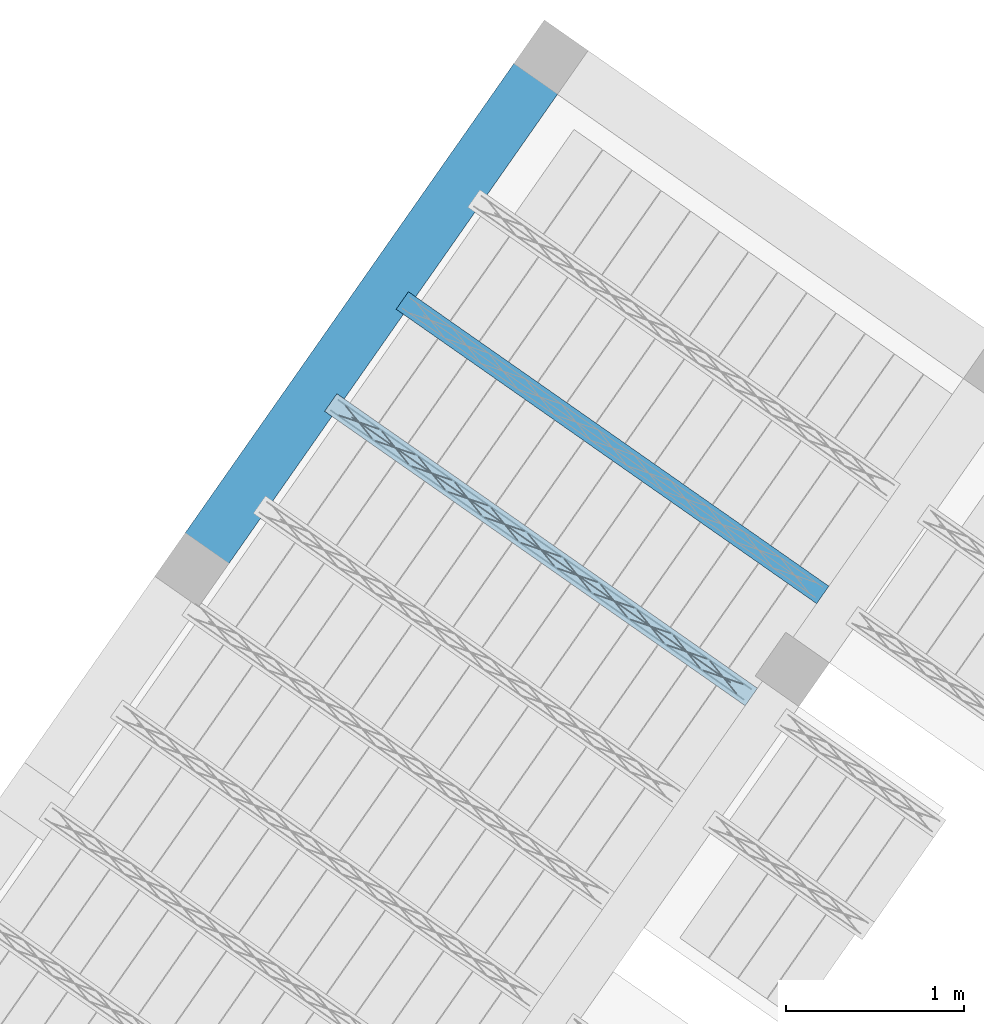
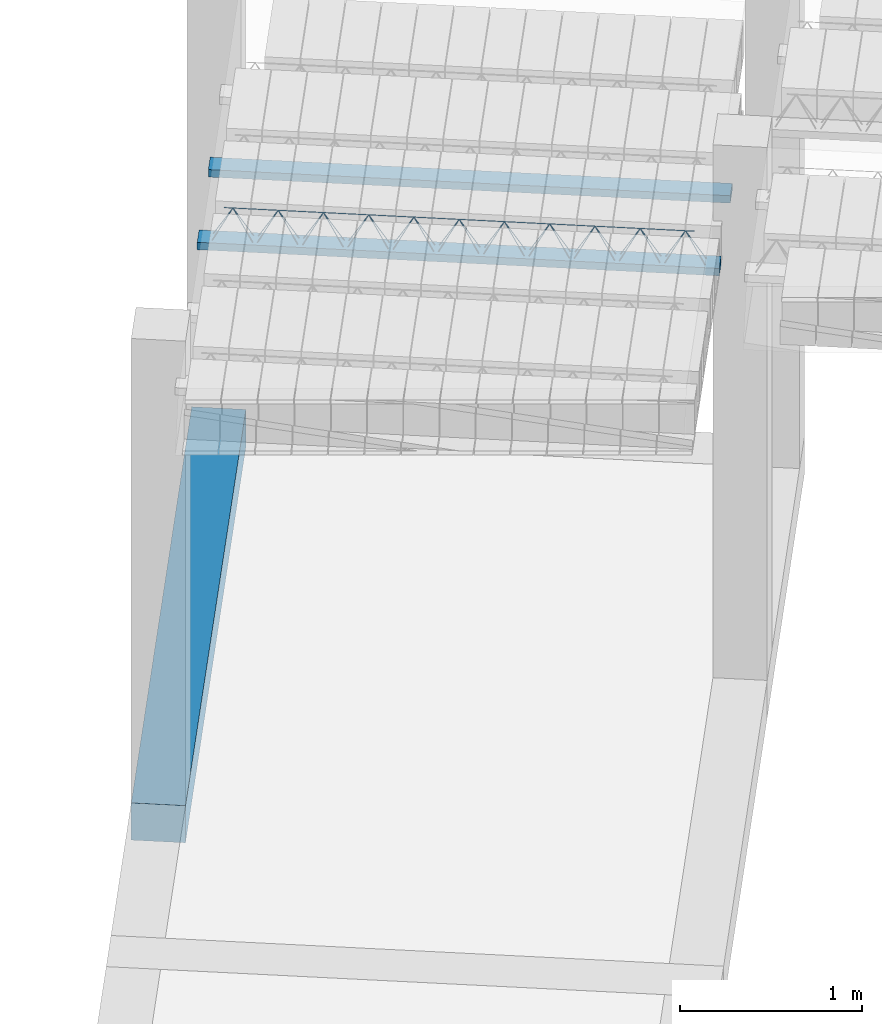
# One storey, part 38 of 80: 3 beams.
"""IFC2X3 building model written with IfcOpenShell, lengths in metres."""

import ifcopenshell
import ifcopenshell.guid

model = None  # the IFC model being written
_history = None  # IfcOwnerHistory: only IFC2X3 demands one
_inside = {}  # id of a spatial element -> (the spatial element, [elements in it])
_under = {}  # id of a project, library or spatial element -> (it, [spatial elements below it])
_declared = {}  # id of a project -> (the project, [libraries it declares])
_typed = {}  # id of a type object -> (the type object, [elements of that type])
_made_of = {}  # id of a material, layer set ... -> (it, [elements and type objects made of it])


def new_model(schema):
    """Start an empty IFC model of exactly this schema.

    Asked for "IFC4X3", IfcOpenShell would pick the latest addendum, in which some entities
    have other attributes; the version numbers below select the first issue.
    IFC2X3 requires an IfcOwnerHistory on every rooted entity: one is made here for all.
    """
    global model, _history
    if schema == "IFC4X3":
        model = ifcopenshell.file(schema_version=(4, 3, 0, 0))
    else:
        model = ifcopenshell.file(schema=schema)
    _inside.clear()
    _under.clear()
    _declared.clear()
    _typed.clear()
    _made_of.clear()
    _history = None
    if model.schema == "IFC2X3":
        org = make("IfcOrganization", Name="unknown")
        user = make(
            "IfcPersonAndOrganization",
            ThePerson=make("IfcPerson", FamilyName="unknown"),
            TheOrganization=org,
        )
        app = make(
            "IfcApplication",
            ApplicationDeveloper=org,
            Version="unknown",
            ApplicationFullName="unknown",
            ApplicationIdentifier="unknown",
        )
        _history = make(
            "IfcOwnerHistory",
            OwningUser=user,
            OwningApplication=app,
            ChangeAction="ADDED",
            CreationDate=0,
        )
    return model


def make(cls, **values):
    """One entity of the class cls with the attributes given. An attribute that is None is left unset."""
    return model.create_entity(
        cls, **{name: value for name, value in values.items() if value is not None}
    )


def entity(cls, *values):
    """Any entity or typed value of the class cls, its attributes in the order of the schema. None: left unset."""
    e = model.create_entity(cls)
    for i, value in enumerate(values):
        if value is not None:
            e[i] = value
    return e


def rooted(cls, **values):
    """An entity with a GlobalId (a new one), such as an element, a storey or a relation."""
    return make(cls, GlobalId=ifcopenshell.guid.new(), OwnerHistory=_history, **values)


def si_unit(unit_type, name, prefix=None):
    """IfcSIUnit, for example si_unit("LENGTHUNIT", "METRE", prefix="MILLI")."""
    return make("IfcSIUnit", UnitType=unit_type, Prefix=prefix, Name=name)


def converted_unit(unit_type, name, factor, base, dimensions=None, offset=None):
    """IfcConversionBasedUnit, such as the inch: factor (a typed value) times the base unit."""
    return make(
        "IfcConversionBasedUnit"
        if offset is None
        else "IfcConversionBasedUnitWithOffset",
        ConversionOffset=offset,
        Dimensions=None
        if dimensions is None
        else entity("IfcDimensionalExponents", *dimensions),
        UnitType=unit_type,
        Name=name,
        ConversionFactor=make(
            "IfcMeasureWithUnit", ValueComponent=factor, UnitComponent=base
        ),
    )


def derived_unit(unit_type, elements):
    """IfcDerivedUnit: a product of units, each with its exponent."""
    return make(
        "IfcDerivedUnit",
        Elements=[
            make("IfcDerivedUnitElement", Unit=unit, Exponent=power)
            for unit, power in elements
        ],
        UnitType=unit_type,
    )


def assignment(units):
    """IfcUnitAssignment: the units of a project."""
    return None if units is None else make("IfcUnitAssignment", Units=units)


def point(xyz):
    """IfcCartesianPoint."""
    return None if xyz is None else make("IfcCartesianPoint", Coordinates=xyz)


def direction(xyz):
    """IfcDirection."""
    return None if xyz is None else make("IfcDirection", DirectionRatios=xyz)


def frame(location, z_axis=None, x_axis=None):
    """IfcAxis2Placement3D, a coordinate frame: its origin and axes. An axis left out is left unset."""
    return make(
        "IfcAxis2Placement3D",
        Location=point(location),
        Axis=direction(z_axis),
        RefDirection=direction(x_axis),
    )


def frame_2d(location, x_axis=None):
    """IfcAxis2Placement2D, a coordinate frame in the plane: its origin and x axis."""
    return make(
        "IfcAxis2Placement2D", Location=point(location), RefDirection=direction(x_axis)
    )


def origin():
    """The frame at (0, 0, 0) with its axes left unset."""
    return frame((0.0, 0.0, 0.0))


def origin_2d_with_axis():
    """The frame at (0, 0) in the plane with the x axis (1, 0) written out."""
    return frame_2d((0.0, 0.0), x_axis=(1.0, 0.0))


def place(relative_to, where):
    """IfcLocalPlacement: puts the frame where relative to a parent placement (None: the world)."""
    return make(
        "IfcLocalPlacement", PlacementRelTo=relative_to, RelativePlacement=where
    )


def context(
    kind, dimensions, precision=None, world=None, true_north=None, identifier=None
):
    """IfcGeometricRepresentationContext, for example the 3D "Model" context."""
    return make(
        "IfcGeometricRepresentationContext",
        ContextIdentifier=identifier,
        ContextType=kind,
        CoordinateSpaceDimension=dimensions,
        Precision=precision,
        WorldCoordinateSystem=world,
        TrueNorth=true_north,
    )


def subcontext(parent, identifier, kind, view, scale=None):
    """IfcGeometricRepresentationSubContext, for example "Body" below "Model"."""
    return make(
        "IfcGeometricRepresentationSubContext",
        ContextIdentifier=identifier,
        ContextType=kind,
        ParentContext=parent,
        TargetScale=scale,
        TargetView=view,
    )


def project(units=None, contexts=None):
    """IfcProject with its units and contexts."""
    return rooted(
        "IfcProject",
        Name="project",
        RepresentationContexts=contexts,
        UnitsInContext=assignment(units),
    )


def spatial(cls, under=None, at=None, **own):
    """A site, building, storey or space (cls), placed at a placement, below another one or the project."""
    s = rooted(cls, ObjectPlacement=at, **own)
    if under is not None:
        _under.setdefault(under.id(), (under, []))[1].append(s)
    return s


def profile(cls, at=None, kind="AREA", **sizes):
    """A parametric profile (cls). Its sizes go by their IFC names, for example OverallWidth=200.0."""
    return make(cls, ProfileType=kind, Position=at, **sizes)


def rectangle(**sizes):
    """IfcRectangleProfileDef."""
    return profile("IfcRectangleProfileDef", **sizes)


def circle(**sizes):
    """IfcCircleProfileDef."""
    return profile("IfcCircleProfileDef", **sizes)


def extrude(swept, where, along, depth):
    """IfcExtrudedAreaSolid: the profile swept, set in the frame where, extruded along a direction by depth."""
    return make(
        "IfcExtrudedAreaSolid",
        SweptArea=swept,
        Position=where,
        ExtrudedDirection=direction(along),
        Depth=depth,
    )


def shape(context_of_items, identifier, shape_type, items):
    """IfcShapeRepresentation: the items that make up one representation, for example the "Body"."""
    return make(
        "IfcShapeRepresentation",
        ContextOfItems=context_of_items,
        RepresentationIdentifier=identifier,
        RepresentationType=shape_type,
        Items=items,
    )


def material(Name=None, Category=None):
    """IfcMaterial."""
    return make("IfcMaterial", Name=Name, Category=Category)


def made_of(thing, what):
    """Note that an element or type object is made of a material, layer set ...; save() writes the relation."""
    if what is not None:
        _made_of.setdefault(what.id(), (what, []))[1].append(thing)
    return thing


def type_object(cls, material=None, **own):
    """A type object (cls), such as IfcWallType, which elements share."""
    return made_of(rooted(cls, **own), material)


def element(
    cls,
    number,
    at=None,
    inside=None,
    cuts=None,
    type_object=None,
    material=None,
    context=None,
    identifier="Body",
    shape_type=None,
    held_by="IfcProductDefinitionShape",
    body=None,
    shapes=None,
    **own,
):
    """One element of the class cls, such as IfcWall. Its Tag is "e" and its number.

    at: its placement. inside: the storey or other place that contains it. cuts: it is an
    opening in that element (IfcRelVoidsElement). A single representation is given by context,
    identifier, shape_type and body (its items); several are given by shapes. held_by: the class
    of the entity that holds the representations. save() writes the other relations.
    """
    e = rooted(cls, Tag="e%d" % number, ObjectPlacement=at, **own)
    if body is not None:
        shapes = [shape(context, identifier, shape_type, body)]
    if shapes is not None:
        e.Representation = make(held_by, Representations=shapes)
    if inside is not None:
        _inside.setdefault(inside.id(), (inside, []))[1].append(e)
    if cuts is not None:
        rooted(
            "IfcRelVoidsElement", RelatingBuildingElement=cuts, RelatedOpeningElement=e
        )
    if type_object is not None:
        _typed.setdefault(type_object.id(), (type_object, []))[1].append(e)
    return made_of(e, material)


def aggregate(whole, parts):
    """IfcRelAggregates: a whole, such as a stair, and the parts it consists of."""
    return rooted("IfcRelAggregates", RelatingObject=whole, RelatedObjects=parts)


def save(model, path):
    """Write the relations noted so far, then the file.

    IfcRelAggregates (storeys below a building ...), IfcRelContainedInSpatialStructure (elements
    in a storey), IfcRelDefinesByType, IfcRelAssociatesMaterial and IfcRelDeclares: one each for
    every whole, place, type object, material and project.
    """
    for whole, parts in _under.values():
        aggregate(whole, parts)
    for where, things in _inside.values():
        rooted(
            "IfcRelContainedInSpatialStructure",
            RelatedElements=things,
            RelatingStructure=where,
        )
    for kind, things in _typed.values():
        rooted("IfcRelDefinesByType", RelatedObjects=things, RelatingType=kind)
    for what, things in _made_of.values():
        rooted("IfcRelAssociatesMaterial", RelatedObjects=things, RelatingMaterial=what)
    for by, libraries in _declared.values():
        rooted("IfcRelDeclares", RelatingContext=by, RelatedDefinitions=libraries)
    model.write(path)


model = new_model("IFC2X3")

# Units and contexts
model_context = context("Model", 3, precision=1e-05, world=origin(), true_north=direction((6.123031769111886e-17, 1.0)))
body_context = subcontext(model_context, "Body", "Model", "MODEL_VIEW")
ifc_project = project(units=[si_unit("LENGTHUNIT", "METRE"), si_unit("AREAUNIT", "SQUARE_METRE"), si_unit("VOLUMEUNIT", "CUBIC_METRE"), converted_unit("PLANEANGLEUNIT", "DEGREE", entity("IfcPlaneAngleMeasure", 0.017453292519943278), si_unit("PLANEANGLEUNIT", "RADIAN"), dimensions=[0, 0, 0, 0, 0, 0, 0]), si_unit("MASSUNIT", "GRAM", prefix="KILO"), derived_unit("MASSDENSITYUNIT", [(si_unit("MASSUNIT", "GRAM", prefix="KILO"), 1), (si_unit("LENGTHUNIT", "METRE"), -3)]), derived_unit("IONCONCENTRATIONUNIT", [(si_unit("MASSUNIT", "GRAM", prefix="KILO"), 1), (si_unit("LENGTHUNIT", "METRE"), -3)]), derived_unit("MOMENTOFINERTIAUNIT", [(si_unit("LENGTHUNIT", "METRE"), 4)]), si_unit("TIMEUNIT", "SECOND"), si_unit("FREQUENCYUNIT", "HERTZ"), si_unit("THERMODYNAMICTEMPERATUREUNIT", "DEGREE_CELSIUS"), derived_unit("THERMALTRANSMITTANCEUNIT", [(si_unit("MASSUNIT", "GRAM", prefix="KILO"), 1), (si_unit("THERMODYNAMICTEMPERATUREUNIT", "KELVIN"), -1), (si_unit("TIMEUNIT", "SECOND"), -3)]), derived_unit("THERMALCONDUCTANCEUNIT", [(si_unit("MASSUNIT", "GRAM", prefix="KILO"), 1), (si_unit("THERMODYNAMICTEMPERATUREUNIT", "KELVIN"), -1), (si_unit("TIMEUNIT", "SECOND"), -3), (si_unit("LENGTHUNIT", "METRE"), 1)]), derived_unit("VOLUMETRICFLOWRATEUNIT", [(si_unit("LENGTHUNIT", "METRE", prefix="DECI"), 3), (si_unit("TIMEUNIT", "SECOND"), -1)]), derived_unit("MASSFLOWRATEUNIT", [(si_unit("MASSUNIT", "GRAM", prefix="KILO"), 1), (si_unit("TIMEUNIT", "SECOND"), -1)]), derived_unit("ROTATIONALFREQUENCYUNIT", [(si_unit("TIMEUNIT", "SECOND"), -1)]), si_unit("ELECTRICCURRENTUNIT", "AMPERE"), si_unit("ELECTRICVOLTAGEUNIT", "VOLT"), si_unit("POWERUNIT", "WATT"), si_unit("FORCEUNIT", "NEWTON", prefix="KILO"), si_unit("ILLUMINANCEUNIT", "LUX"), si_unit("LUMINOUSFLUXUNIT", "LUMEN"), si_unit("LUMINOUSINTENSITYUNIT", "CANDELA"), si_unit("ENERGYUNIT", "JOULE"), derived_unit("USERDEFINED", [(si_unit("MASSUNIT", "GRAM", prefix="KILO"), -1), (si_unit("LENGTHUNIT", "METRE"), -2), (si_unit("TIMEUNIT", "SECOND"), 3), (si_unit("LUMINOUSFLUXUNIT", "LUMEN"), 1)]), derived_unit("USERDEFINED", [(si_unit("MASSUNIT", "GRAM", prefix="KILO"), 1), (si_unit("TIMEUNIT", "SECOND"), -3), (si_unit("LENGTHUNIT", "METRE"), 3), (si_unit("ELECTRICCURRENTUNIT", "AMPERE"), -2)]), derived_unit("SOUNDPOWERUNIT", [(si_unit("MASSUNIT", "GRAM", prefix="KILO"), 1), (si_unit("TIMEUNIT", "SECOND"), -3), (si_unit("LENGTHUNIT", "METRE"), 2)]), derived_unit("SOUNDPRESSUREUNIT", [(si_unit("MASSUNIT", "GRAM", prefix="KILO"), 1), (si_unit("LENGTHUNIT", "METRE"), -1), (si_unit("TIMEUNIT", "SECOND"), -2)]), derived_unit("LINEARVELOCITYUNIT", [(si_unit("LENGTHUNIT", "METRE"), 1), (si_unit("TIMEUNIT", "SECOND"), -1)]), si_unit("PRESSUREUNIT", "PASCAL"), derived_unit("USERDEFINED", [(si_unit("MASSUNIT", "GRAM", prefix="KILO"), 1), (si_unit("LENGTHUNIT", "METRE"), -2), (si_unit("TIMEUNIT", "SECOND"), -2)]), derived_unit("LINEARFORCEUNIT", [(si_unit("MASSUNIT", "GRAM", prefix="KILO"), 1), (si_unit("TIMEUNIT", "SECOND"), -2)]), derived_unit("PLANARFORCEUNIT", [(si_unit("MASSUNIT", "GRAM", prefix="KILO"), 1), (si_unit("LENGTHUNIT", "METRE"), -1), (si_unit("TIMEUNIT", "SECOND"), -2)]), derived_unit("SPECIFICHEATCAPACITYUNIT", [(si_unit("THERMODYNAMICTEMPERATUREUNIT", "KELVIN"), -1), (si_unit("LENGTHUNIT", "METRE"), 2), (si_unit("TIMEUNIT", "SECOND"), -2)]), derived_unit("HEATFLUXDENSITYUNIT", [(si_unit("MASSUNIT", "GRAM", prefix="KILO"), 1), (si_unit("TIMEUNIT", "SECOND"), -3)]), derived_unit("HEATINGVALUEUNIT", [(si_unit("LENGTHUNIT", "METRE"), 2), (si_unit("TIMEUNIT", "SECOND"), -2)]), derived_unit("VAPORPERMEABILITYUNIT", [(si_unit("LENGTHUNIT", "METRE"), -1), (si_unit("TIMEUNIT", "SECOND"), 1)]), derived_unit("DYNAMICVISCOSITYUNIT", [(si_unit("MASSUNIT", "GRAM", prefix="KILO"), 1), (si_unit("TIMEUNIT", "SECOND"), -1), (si_unit("LENGTHUNIT", "METRE"), -1)]), derived_unit("THERMALEXPANSIONCOEFFICIENTUNIT", [(si_unit("THERMODYNAMICTEMPERATUREUNIT", "KELVIN"), -1)]), derived_unit("MODULUSOFELASTICITYUNIT", [(si_unit("MASSUNIT", "GRAM", prefix="KILO"), 1), (si_unit("LENGTHUNIT", "METRE"), -1), (si_unit("TIMEUNIT", "SECOND"), -2)]), derived_unit("ISOTHERMALMOISTURECAPACITYUNIT", [(si_unit("MASSUNIT", "GRAM", prefix="KILO"), -1), (si_unit("LENGTHUNIT", "METRE"), 3)]), derived_unit("MOISTUREDIFFUSIVITYUNIT", [(si_unit("TIMEUNIT", "SECOND"), -1), (si_unit("LENGTHUNIT", "METRE"), 2)]), derived_unit("MASSPERLENGTHUNIT", [(si_unit("MASSUNIT", "GRAM", prefix="KILO"), 1), (si_unit("LENGTHUNIT", "METRE"), -1)]), derived_unit("THERMALRESISTANCEUNIT", [(si_unit("MASSUNIT", "GRAM", prefix="KILO"), -1), (si_unit("TIMEUNIT", "SECOND"), 3), (si_unit("THERMODYNAMICTEMPERATUREUNIT", "KELVIN"), 1)]), derived_unit("ACCELERATIONUNIT", [(si_unit("LENGTHUNIT", "METRE"), 1), (si_unit("TIMEUNIT", "SECOND"), -2)]), derived_unit("ANGULARVELOCITYUNIT", [(si_unit("TIMEUNIT", "SECOND"), -1), (si_unit("PLANEANGLEUNIT", "RADIAN"), 1)]), derived_unit("LINEARSTIFFNESSUNIT", [(si_unit("MASSUNIT", "GRAM", prefix="KILO"), 1), (si_unit("TIMEUNIT", "SECOND"), -2)]), derived_unit("WARPINGCONSTANTUNIT", [(si_unit("LENGTHUNIT", "METRE"), 6)]), derived_unit("LINEARMOMENTUNIT", [(si_unit("MASSUNIT", "GRAM", prefix="KILO"), 1), (si_unit("LENGTHUNIT", "METRE"), 1), (si_unit("TIMEUNIT", "SECOND"), -2)]), derived_unit("TORQUEUNIT", [(si_unit("MASSUNIT", "GRAM", prefix="KILO"), 1), (si_unit("LENGTHUNIT", "METRE"), 2), (si_unit("TIMEUNIT", "SECOND"), -2)])], contexts=[model_context])

# Site, building, storey
site_placement = place(None, origin())
site = spatial("IfcSite", under=ifc_project, at=site_placement, Name="Default", CompositionType="ELEMENT")
building_placement = place(site_placement, origin())
building = spatial("IfcBuilding", under=site, at=building_placement, CompositionType="ELEMENT")
storey_placement = place(building_placement, frame((0.0, 0.0, 95.94)))
storey = spatial("IfcBuildingStorey", under=building, at=storey_placement, Name="PB", CompositionType="ELEMENT", Elevation=95.94)

# Beams
beam_type = type_object("IfcBeamType", Name="Vigueta 12 (Paño 2) (Mf = 10.92)", PredefinedType="JOIST")
beam_1_placement = place(storey_placement, origin())
element("IfcBeam", 1, at=beam_1_placement, inside=storey, type_object=beam_type, Name="Vigueta 12 (Paño 2) (Mf = 10.92)", ObjectType="Mf = 10.92", context=body_context, shape_type="SweptSolid", body=[
    extrude(rectangle(XDim=2.8843914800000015, YDim=0.12000000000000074, at=frame_2d((-5.551115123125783e-16, -3.365363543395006e-16), x_axis=(1.0, 0.0))), frame((4.417970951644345, 8.199012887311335, 2.82), z_axis=(0.0, 0.0, 1.0), x_axis=(0.8191520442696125, -0.5735764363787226, 0.0)), (0.0, 0.0, 1.0), 0.04999999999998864),
    extrude(circle(Radius=0.0025, at=origin_2d_with_axis()), frame((3.235604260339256, 8.982967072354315, 2.8449999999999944), z_axis=(0.8191520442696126, -0.5735764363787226, 0.0), x_axis=(-0.5735764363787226, -0.8191520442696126, 0.0)), (0.0, 0.0, 1.0), 2.836391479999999),
    extrude(circle(Radius=0.0025, at=origin_2d_with_axis()), frame((3.3530732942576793, 8.94466225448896, 3.069999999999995), z_axis=(0.8191520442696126, -0.5735764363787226, 0.0), x_axis=(-0.5735764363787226, -0.8191520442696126, 0.0)), (0.0, 0.0, 1.0), 2.599999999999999),
    extrude(circle(Radius=0.0025, at=origin_2d_with_axis()), frame((5.523656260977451, 7.380855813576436, 2.8449999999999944), z_axis=(-0.3145304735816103, 0.389334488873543, 0.8657304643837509), x_axis=(-0.7778747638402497, -0.6284193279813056, 0.0)), (0.0, 0.0, 1.0), 0.2598961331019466),
    extrude(circle(Radius=0.0025, at=origin_2d_with_axis()), frame((5.3188682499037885, 7.5242499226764, 2.8449999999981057), z_axis=(0.47343050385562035, -0.1624017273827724, 0.8657304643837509), x_axis=(-0.3244721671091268, -0.9458952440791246, 0.0)), (0.0, 0.0, 1.0), 0.25989613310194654),
    extrude(circle(Radius=0.0025, at=origin_2d_with_axis()), frame((5.318868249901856, 7.5242499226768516, 2.8449999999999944), z_axis=(-0.3145304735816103, 0.389334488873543, 0.8657304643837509), x_axis=(-0.7778747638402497, -0.6284193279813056, 0.0)), (0.0, 0.0, 1.0), 0.2598961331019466),
    extrude(circle(Radius=0.0025, at=origin_2d_with_axis()), frame((5.114080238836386, 7.667644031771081, 2.8449999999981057), z_axis=(0.47343050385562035, -0.1624017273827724, 0.8657304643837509), x_axis=(-0.3244721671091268, -0.9458952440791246, 0.0)), (0.0, 0.0, 1.0), 0.25989613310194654),
    extrude(circle(Radius=0.0025, at=origin_2d_with_axis()), frame((5.114080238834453, 7.667644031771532, 2.8449999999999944), z_axis=(-0.3145304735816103, 0.389334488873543, 0.8657304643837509), x_axis=(-0.7778747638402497, -0.6284193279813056, 0.0)), (0.0, 0.0, 1.0), 0.2598961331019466),
    extrude(circle(Radius=0.0025, at=origin_2d_with_axis()), frame((4.909292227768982, 7.8110381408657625, 2.8449999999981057), z_axis=(0.47343050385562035, -0.1624017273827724, 0.8657304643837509), x_axis=(-0.3244721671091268, -0.9458952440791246, 0.0)), (0.0, 0.0, 1.0), 0.25989613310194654),
    extrude(circle(Radius=0.0025, at=origin_2d_with_axis()), frame((4.90929222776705, 7.811038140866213, 2.8449999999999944), z_axis=(-0.3145304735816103, 0.389334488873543, 0.8657304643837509), x_axis=(-0.7778747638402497, -0.6284193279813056, 0.0)), (0.0, 0.0, 1.0), 0.2598961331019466),
    extrude(circle(Radius=0.0025, at=origin_2d_with_axis()), frame((4.704504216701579, 7.954432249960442, 2.8449999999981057), z_axis=(0.47343050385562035, -0.1624017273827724, 0.8657304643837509), x_axis=(-0.3244721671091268, -0.9458952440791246, 0.0)), (0.0, 0.0, 1.0), 0.25989613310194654),
    extrude(circle(Radius=0.0025, at=origin_2d_with_axis()), frame((4.704504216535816, 7.954432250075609, 2.8449999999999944), z_axis=(-0.3145304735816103, 0.389334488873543, 0.8657304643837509), x_axis=(-0.7778747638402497, -0.6284193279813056, 0.0)), (0.0, 0.0, 1.0), 0.2598961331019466),
    extrude(circle(Radius=0.0025, at=origin_2d_with_axis()), frame((4.499716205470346, 8.097826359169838, 2.8449999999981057), z_axis=(0.47343050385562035, -0.1624017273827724, 0.8657304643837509), x_axis=(-0.3244721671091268, -0.9458952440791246, 0.0)), (0.0, 0.0, 1.0), 0.25989613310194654),
    extrude(circle(Radius=0.0025, at=origin_2d_with_axis()), frame((4.499716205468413, 8.09782635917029, 2.8449999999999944), z_axis=(-0.3145304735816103, 0.389334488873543, 0.8657304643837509), x_axis=(-0.7778747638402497, -0.6284193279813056, 0.0)), (0.0, 0.0, 1.0), 0.2598961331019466),
    extrude(circle(Radius=0.0025, at=origin_2d_with_axis()), frame((4.294928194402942, 8.241220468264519, 2.8449999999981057), z_axis=(0.47343050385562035, -0.1624017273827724, 0.8657304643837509), x_axis=(-0.3244721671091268, -0.9458952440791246, 0.0)), (0.0, 0.0, 1.0), 0.25989613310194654),
    extrude(circle(Radius=0.0025, at=origin_2d_with_axis()), frame((4.2949281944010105, 8.24122046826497, 2.8449999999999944), z_axis=(-0.3145304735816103, 0.389334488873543, 0.8657304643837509), x_axis=(-0.7778747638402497, -0.6284193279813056, 0.0)), (0.0, 0.0, 1.0), 0.2598961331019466),
    extrude(circle(Radius=0.0025, at=origin_2d_with_axis()), frame((4.0901401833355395, 8.3846145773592, 2.8449999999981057), z_axis=(0.47343050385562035, -0.1624017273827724, 0.8657304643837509), x_axis=(-0.3244721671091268, -0.9458952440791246, 0.0)), (0.0, 0.0, 1.0), 0.25989613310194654),
    extrude(circle(Radius=0.0025, at=origin_2d_with_axis()), frame((4.090140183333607, 8.38461457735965, 2.8449999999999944), z_axis=(-0.3145304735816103, 0.389334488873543, 0.8657304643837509), x_axis=(-0.7778747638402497, -0.6284193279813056, 0.0)), (0.0, 0.0, 1.0), 0.2598961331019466),
    extrude(circle(Radius=0.0025, at=origin_2d_with_axis()), frame((3.8853521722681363, 8.52800868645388, 2.8449999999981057), z_axis=(0.47343050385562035, -0.1624017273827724, 0.8657304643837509), x_axis=(-0.3244721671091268, -0.9458952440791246, 0.0)), (0.0, 0.0, 1.0), 0.25989613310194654),
    extrude(circle(Radius=0.0025, at=origin_2d_with_axis()), frame((3.885352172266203, 8.528008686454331, 2.8449999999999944), z_axis=(-0.3145304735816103, 0.389334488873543, 0.8657304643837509), x_axis=(-0.7778747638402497, -0.6284193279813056, 0.0)), (0.0, 0.0, 1.0), 0.2598961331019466),
    extrude(circle(Radius=0.0025, at=origin_2d_with_axis()), frame((3.6805641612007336, 8.67140279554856, 2.8449999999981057), z_axis=(0.47343050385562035, -0.1624017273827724, 0.8657304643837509), x_axis=(-0.3244721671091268, -0.9458952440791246, 0.0)), (0.0, 0.0, 1.0), 0.25989613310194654),
    extrude(circle(Radius=0.0025, at=origin_2d_with_axis()), frame((3.6805641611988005, 8.671402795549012, 2.8449999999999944), z_axis=(-0.3145304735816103, 0.389334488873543, 0.8657304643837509), x_axis=(-0.7778747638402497, -0.6284193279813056, 0.0)), (0.0, 0.0, 1.0), 0.2598961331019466),
    extrude(circle(Radius=0.0025, at=origin_2d_with_axis()), frame((3.47577615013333, 8.814796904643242, 2.8449999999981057), z_axis=(0.47343050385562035, -0.1624017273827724, 0.8657304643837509), x_axis=(-0.3244721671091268, -0.9458952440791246, 0.0)), (0.0, 0.0, 1.0), 0.25989613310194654),
    extrude(circle(Radius=0.0025, at=origin_2d_with_axis()), frame((3.4757761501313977, 8.814796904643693, 2.8449999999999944), z_axis=(-0.3145304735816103, 0.389334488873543, 0.8657304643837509), x_axis=(-0.7778747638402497, -0.6284193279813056, 0.0)), (0.0, 0.0, 1.0), 0.2598961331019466),
    extrude(circle(Radius=0.0025, at=origin_2d_with_axis()), frame((3.270988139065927, 8.958191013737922, 2.8449999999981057), z_axis=(0.47343050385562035, -0.1624017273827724, 0.8657304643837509), x_axis=(-0.3244721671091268, -0.9458952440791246, 0.0)), (0.0, 0.0, 1.0), 0.25989613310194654),
    extrude(circle(Radius=0.0025, at=origin_2d_with_axis()), frame((5.600337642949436, 7.4150587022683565, 2.8449999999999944), z_axis=(-0.8191520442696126, 0.5735764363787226, 0.0), x_axis=(-0.5735764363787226, -0.8191520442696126, 0.0)), (0.0, 0.0, 1.0), 2.8363914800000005),
    extrude(circle(Radius=0.0025, at=origin_2d_with_axis()), frame((5.564953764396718, 7.439834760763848, 2.8449999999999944), z_axis=(-0.47343050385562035, 0.1624017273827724, 0.8657304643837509), x_axis=(-0.3244721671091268, -0.9458952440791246, 0.0)), (0.0, 0.0, 1.0), 0.25989613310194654),
    extrude(circle(Radius=0.0025, at=origin_2d_with_axis()), frame((5.360165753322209, 7.5832288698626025, 2.8449999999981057), z_axis=(0.3145304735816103, -0.389334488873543, 0.8657304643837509), x_axis=(-0.7778747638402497, -0.6284193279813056, 0.0)), (0.0, 0.0, 1.0), 0.2598961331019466),
    extrude(circle(Radius=0.0025, at=origin_2d_with_axis()), frame((5.360165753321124, 7.583228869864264, 2.8449999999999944), z_axis=(-0.47343050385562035, 0.1624017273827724, 0.8657304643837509), x_axis=(-0.3244721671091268, -0.9458952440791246, 0.0)), (0.0, 0.0, 1.0), 0.25989613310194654),
    extrude(circle(Radius=0.0025, at=origin_2d_with_axis()), frame((5.155377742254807, 7.726622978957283, 2.8449999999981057), z_axis=(0.3145304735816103, -0.389334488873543, 0.8657304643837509), x_axis=(-0.7778747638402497, -0.6284193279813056, 0.0)), (0.0, 0.0, 1.0), 0.2598961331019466),
    extrude(circle(Radius=0.0025, at=origin_2d_with_axis()), frame((5.15537774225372, 7.726622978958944, 2.8449999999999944), z_axis=(-0.47343050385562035, 0.1624017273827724, 0.8657304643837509), x_axis=(-0.3244721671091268, -0.9458952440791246, 0.0)), (0.0, 0.0, 1.0), 0.25989613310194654),
    extrude(circle(Radius=0.0025, at=origin_2d_with_axis()), frame((4.950589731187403, 7.870017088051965, 2.8449999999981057), z_axis=(0.3145304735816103, -0.389334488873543, 0.8657304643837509), x_axis=(-0.7778747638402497, -0.6284193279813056, 0.0)), (0.0, 0.0, 1.0), 0.2598961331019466),
    extrude(circle(Radius=0.0025, at=origin_2d_with_axis()), frame((4.950589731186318, 7.870017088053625, 2.8449999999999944), z_axis=(-0.47343050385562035, 0.1624017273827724, 0.8657304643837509), x_axis=(-0.3244721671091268, -0.9458952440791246, 0.0)), (0.0, 0.0, 1.0), 0.25989613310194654),
    extrude(circle(Radius=0.0025, at=origin_2d_with_axis()), frame((4.74580172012, 8.013411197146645, 2.8449999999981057), z_axis=(0.3145304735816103, -0.389334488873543, 0.8657304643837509), x_axis=(-0.7778747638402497, -0.6284193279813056, 0.0)), (0.0, 0.0, 1.0), 0.2598961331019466),
    extrude(circle(Radius=0.0025, at=origin_2d_with_axis()), frame((4.745801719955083, 8.01341119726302, 2.8449999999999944), z_axis=(-0.47343050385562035, 0.1624017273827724, 0.8657304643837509), x_axis=(-0.3244721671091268, -0.9458952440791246, 0.0)), (0.0, 0.0, 1.0), 0.25989613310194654),
    extrude(circle(Radius=0.0025, at=origin_2d_with_axis()), frame((4.541013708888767, 8.156805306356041, 2.8449999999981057), z_axis=(0.3145304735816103, -0.389334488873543, 0.8657304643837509), x_axis=(-0.7778747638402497, -0.6284193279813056, 0.0)), (0.0, 0.0, 1.0), 0.2598961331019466),
    extrude(circle(Radius=0.0025, at=origin_2d_with_axis()), frame((4.5410137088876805, 8.156805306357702, 2.8449999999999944), z_axis=(-0.47343050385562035, 0.1624017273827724, 0.8657304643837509), x_axis=(-0.3244721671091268, -0.9458952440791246, 0.0)), (0.0, 0.0, 1.0), 0.25989613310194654),
    extrude(circle(Radius=0.0025, at=origin_2d_with_axis()), frame((4.336225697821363, 8.300199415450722, 2.8449999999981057), z_axis=(0.3145304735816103, -0.389334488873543, 0.8657304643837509), x_axis=(-0.7778747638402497, -0.6284193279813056, 0.0)), (0.0, 0.0, 1.0), 0.2598961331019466),
    extrude(circle(Radius=0.0025, at=origin_2d_with_axis()), frame((4.336225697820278, 8.300199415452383, 2.8449999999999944), z_axis=(-0.47343050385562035, 0.1624017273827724, 0.8657304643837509), x_axis=(-0.3244721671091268, -0.9458952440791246, 0.0)), (0.0, 0.0, 1.0), 0.25989613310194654),
    extrude(circle(Radius=0.0025, at=origin_2d_with_axis()), frame((4.13143768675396, 8.443593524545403, 2.8449999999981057), z_axis=(0.3145304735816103, -0.389334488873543, 0.8657304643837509), x_axis=(-0.7778747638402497, -0.6284193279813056, 0.0)), (0.0, 0.0, 1.0), 0.2598961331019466),
    extrude(circle(Radius=0.0025, at=origin_2d_with_axis()), frame((4.131437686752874, 8.443593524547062, 2.8449999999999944), z_axis=(-0.47343050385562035, 0.1624017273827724, 0.8657304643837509), x_axis=(-0.3244721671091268, -0.9458952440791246, 0.0)), (0.0, 0.0, 1.0), 0.25989613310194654),
    extrude(circle(Radius=0.0025, at=origin_2d_with_axis()), frame((3.926649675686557, 8.586987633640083, 2.8449999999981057), z_axis=(0.3145304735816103, -0.389334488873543, 0.8657304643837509), x_axis=(-0.7778747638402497, -0.6284193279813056, 0.0)), (0.0, 0.0, 1.0), 0.2598961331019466),
    extrude(circle(Radius=0.0025, at=origin_2d_with_axis()), frame((3.926649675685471, 8.586987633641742, 2.8449999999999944), z_axis=(-0.47343050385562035, 0.1624017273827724, 0.8657304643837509), x_axis=(-0.3244721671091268, -0.9458952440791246, 0.0)), (0.0, 0.0, 1.0), 0.25989613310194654),
    extrude(circle(Radius=0.0025, at=origin_2d_with_axis()), frame((3.7218616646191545, 8.730381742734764, 2.8449999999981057), z_axis=(0.3145304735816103, -0.389334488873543, 0.8657304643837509), x_axis=(-0.7778747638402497, -0.6284193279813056, 0.0)), (0.0, 0.0, 1.0), 0.2598961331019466),
    extrude(circle(Radius=0.0025, at=origin_2d_with_axis()), frame((3.721861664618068, 8.730381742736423, 2.8449999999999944), z_axis=(-0.47343050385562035, 0.1624017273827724, 0.8657304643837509), x_axis=(-0.3244721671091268, -0.9458952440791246, 0.0)), (0.0, 0.0, 1.0), 0.25989613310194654),
    extrude(circle(Radius=0.0025, at=origin_2d_with_axis()), frame((3.517073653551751, 8.873775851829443, 2.8449999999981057), z_axis=(0.3145304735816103, -0.389334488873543, 0.8657304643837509), x_axis=(-0.7778747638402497, -0.6284193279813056, 0.0)), (0.0, 0.0, 1.0), 0.2598961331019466),
    extrude(circle(Radius=0.0025, at=origin_2d_with_axis()), frame((3.5170736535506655, 8.873775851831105, 2.8449999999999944), z_axis=(-0.47343050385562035, 0.1624017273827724, 0.8657304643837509), x_axis=(-0.3244721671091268, -0.9458952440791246, 0.0)), (0.0, 0.0, 1.0), 0.25989613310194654),
    extrude(circle(Radius=0.0025, at=origin_2d_with_axis()), frame((3.3122856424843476, 9.017169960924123, 2.8449999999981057), z_axis=(0.3145304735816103, -0.389334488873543, 0.8657304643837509), x_axis=(-0.7778747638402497, -0.6284193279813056, 0.0)), (0.0, 0.0, 1.0), 0.2598961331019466),
])
ifc_material = material(Name="Hormigón armado")
beam_2_placement = place(storey_placement, origin())
element("IfcBeam", 2, at=beam_2_placement, inside=storey, material=ifc_material, Name="Viga 2 (30x25)", ObjectType="30x25", context=body_context, shape_type="SweptSolid", body=[
    extrude(rectangle(XDim=0.2500000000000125, YDim=0.3000000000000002, at=origin_2d_with_axis()), frame((2.370466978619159, 7.963709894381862, -0.12500000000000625), z_axis=(0.5735764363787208, 0.8191520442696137, 0.0), x_axis=(0.0, 0.0, 1.0)), (0.0, 0.0, 1.0), 3.816148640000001),
])
beam_3_placement = place(storey_placement, origin())
element("IfcBeam", 3, at=beam_3_placement, inside=storey, material=ifc_material, Name="237993", context=body_context, shape_type="SweptSolid", body=[
    extrude(rectangle(XDim=0.04999999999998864, YDim=0.11999999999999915, at=frame_2d((1.7324683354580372e-14, 0.0), x_axis=(1.0, 0.0))), frame((3.6381257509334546, 9.599608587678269, 2.8450000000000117), z_axis=(0.8191520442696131, -0.5735764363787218, 0.0), x_axis=(0.0, 0.0, -1.0)), (0.0, 0.0, 1.0), 2.884356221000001),
])

save(model, "model.ifc")
